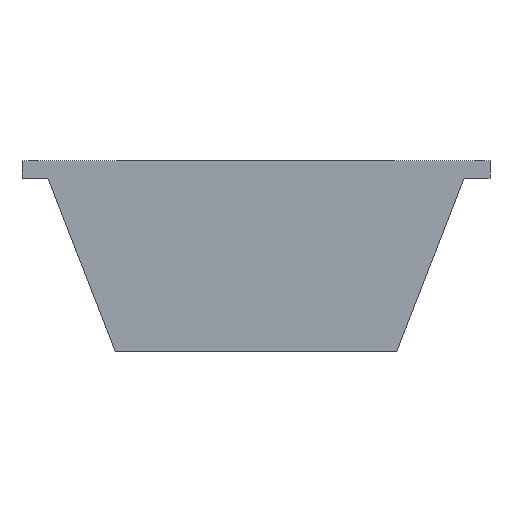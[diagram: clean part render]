
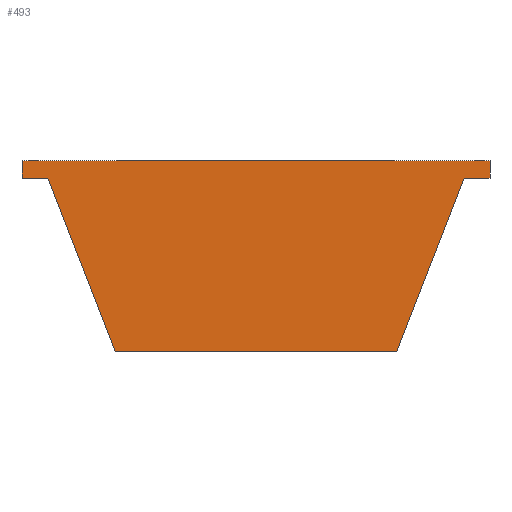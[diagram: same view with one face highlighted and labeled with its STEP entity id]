
A CAD part, front view. The second image highlights one B-rep face of the part: STEP entity #493.
In plain terms, the highlighted planar face has unit normal (0, -1, 0).
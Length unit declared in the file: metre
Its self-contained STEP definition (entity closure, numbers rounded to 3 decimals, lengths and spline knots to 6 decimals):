
#26=LINE('',#745,#62);
#32=LINE('',#757,#68);
#36=LINE('',#766,#72);
#37=LINE('',#768,#73);
#38=LINE('',#770,#74);
#39=LINE('',#771,#75);
#40=LINE('',#773,#76);
#41=LINE('',#775,#77);
#62=VECTOR('',#604,1.);
#68=VECTOR('',#612,1.);
#72=VECTOR('',#618,1.);
#73=VECTOR('',#619,1.);
#74=VECTOR('',#620,1.);
#75=VECTOR('',#621,1.);
#76=VECTOR('',#622,1.);
#77=VECTOR('',#623,1.);
#116=ORIENTED_EDGE('',*,*,#236,.T.);
#117=ORIENTED_EDGE('',*,*,#237,.F.);
#118=ORIENTED_EDGE('',*,*,#238,.F.);
#119=ORIENTED_EDGE('',*,*,#226,.T.);
#120=ORIENTED_EDGE('',*,*,#239,.T.);
#121=ORIENTED_EDGE('',*,*,#240,.T.);
#122=ORIENTED_EDGE('',*,*,#241,.T.);
#123=ORIENTED_EDGE('',*,*,#232,.F.);
#226=EDGE_CURVE('',#287,#286,#26,.T.);
#232=EDGE_CURVE('',#292,#293,#32,.T.);
#236=EDGE_CURVE('',#292,#296,#36,.F.);
#237=EDGE_CURVE('',#297,#296,#37,.T.);
#238=EDGE_CURVE('',#287,#297,#38,.T.);
#239=EDGE_CURVE('',#286,#298,#39,.T.);
#240=EDGE_CURVE('',#298,#299,#40,.T.);
#241=EDGE_CURVE('',#299,#293,#41,.T.);
#286=VERTEX_POINT('',#744);
#287=VERTEX_POINT('',#746);
#292=VERTEX_POINT('',#758);
#293=VERTEX_POINT('',#759);
#296=VERTEX_POINT('',#767);
#297=VERTEX_POINT('',#769);
#298=VERTEX_POINT('',#772);
#299=VERTEX_POINT('',#774);
#359=EDGE_LOOP('',(#116,#117,#118,#119,#120,#121,#122,#123));
#423=FACE_BOUND('',#359,.T.);
#478=PLANE('',#541);
#493=ADVANCED_FACE('',(#423),#478,.T.);
#541=AXIS2_PLACEMENT_3D('',#765,#616,#617);
#604=DIRECTION('',(-1.,0.,0.));
#612=DIRECTION('',(-1.,0.,0.));
#616=DIRECTION('',(0.,-1.,0.));
#617=DIRECTION('',(0.,0.,-1.));
#618=DIRECTION('',(-0.362,0.,-0.932));
#619=DIRECTION('',(-1.,0.,0.));
#620=DIRECTION('',(0.,0.,-1.));
#621=DIRECTION('',(0.,0.,-1.));
#622=DIRECTION('',(1.,0.,0.));
#623=DIRECTION('',(0.362,0.,-0.932));
#744=CARTESIAN_POINT('',(-0.108111,-0.305,0.02));
#745=CARTESIAN_POINT('',(0.,-0.305,0.02));
#746=CARTESIAN_POINT('',(0.108111,-0.305,0.02));
#757=CARTESIAN_POINT('',(0.,-0.305,-0.068));
#758=CARTESIAN_POINT('',(0.065,-0.305,-0.068));
#759=CARTESIAN_POINT('',(-0.065,-0.305,-0.068));
#765=CARTESIAN_POINT('',(0.,-0.305,0.012));
#766=CARTESIAN_POINT('',(0.083485,-0.305,-0.020466));
#767=CARTESIAN_POINT('',(0.096111,-0.305,0.012));
#768=CARTESIAN_POINT('',(0.108111,-0.305,0.012));
#769=CARTESIAN_POINT('',(0.108111,-0.305,0.012));
#770=CARTESIAN_POINT('',(0.108111,-0.305,0.02));
#771=CARTESIAN_POINT('',(-0.108111,-0.305,0.02));
#772=CARTESIAN_POINT('',(-0.108111,-0.305,0.012));
#773=CARTESIAN_POINT('',(-0.108111,-0.305,0.012));
#774=CARTESIAN_POINT('',(-0.096111,-0.305,0.012));
#775=CARTESIAN_POINT('',(-0.083485,-0.305,-0.020466));
